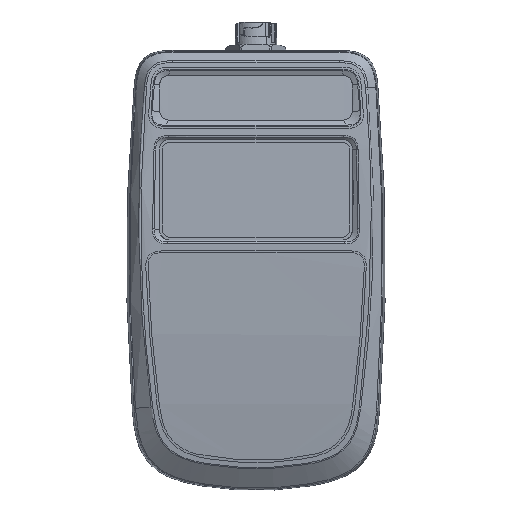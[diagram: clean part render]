
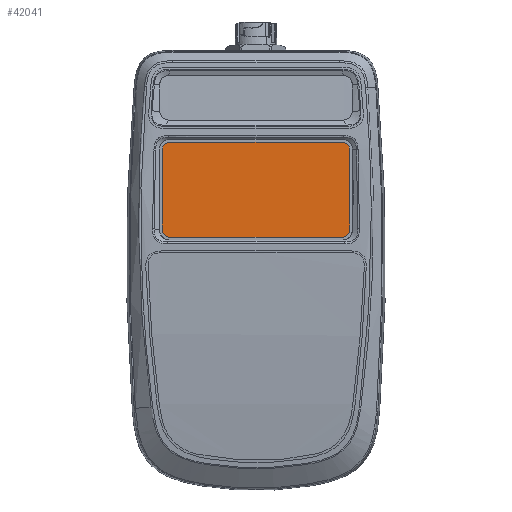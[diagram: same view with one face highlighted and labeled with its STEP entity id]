
A CAD part, top view. The second image highlights one B-rep face of the part: STEP entity #42041.
In plain terms, the highlighted planar face has unit normal (0, 0, 1).
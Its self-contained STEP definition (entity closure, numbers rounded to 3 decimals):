
#1650 = CARTESIAN_POINT ( 'NONE',  ( 31., 7.9, 13.5 ) ) ;
#1729 = EDGE_CURVE ( 'NONE', #7754, #39857, #15596, .T. ) ;
#2017 = CARTESIAN_POINT ( 'NONE',  ( 33.6, 39.5, 13.5 ) ) ;
#2302 = AXIS2_PLACEMENT_3D ( 'NONE', #29156, #7526, #50826 ) ;
#3307 = DIRECTION ( 'NONE',  ( 1., 0., 0. ) ) ;
#6739 = EDGE_CURVE ( 'NONE', #9094, #67691, #29383, .T. ) ;
#7526 = DIRECTION ( 'NONE',  ( 0., 0., 1. ) ) ;
#7754 = VERTEX_POINT ( 'NONE', #41322 ) ;
#8089 = CARTESIAN_POINT ( 'NONE',  ( 31., 42.1, 13.5 ) ) ;
#8381 = EDGE_CURVE ( 'NONE', #91389, #7754, #57954, .T. ) ;
#9094 = VERTEX_POINT ( 'NONE', #30779 ) ;
#9519 = PLANE ( 'NONE',  #47191 ) ;
#11336 = DIRECTION ( 'NONE',  ( 0., 0., 1. ) ) ;
#12687 = ORIENTED_EDGE ( 'NONE', *, *, #76613, .T. ) ;
#15596 = LINE ( 'NONE', #50024, #24870 ) ;
#15933 = ORIENTED_EDGE ( 'NONE', *, *, #1729, .T. ) ;
#16891 = DIRECTION ( 'NONE',  ( 0., 0., 1. ) ) ;
#18258 = LINE ( 'NONE', #89475, #55705 ) ;
#19916 = EDGE_CURVE ( 'NONE', #67691, #91389, #56037, .T. ) ;
#23489 = CIRCLE ( 'NONE', #92764, 2.6 ) ;
#23496 = DIRECTION ( 'NONE',  ( 0., -1., 0. ) ) ;
#24870 = VECTOR ( 'NONE', #49556, 1000. ) ;
#29156 = CARTESIAN_POINT ( 'NONE',  ( -31., 10.5, 13.5 ) ) ;
#29383 = CIRCLE ( 'NONE', #2302, 2.6 ) ;
#30779 = CARTESIAN_POINT ( 'NONE',  ( -33.6, 10.5, 13.5 ) ) ;
#31038 = DIRECTION ( 'NONE',  ( 1., 0., 0. ) ) ;
#31255 = CIRCLE ( 'NONE', #79426, 2.6 ) ;
#32557 = DIRECTION ( 'NONE',  ( 1., 0., 0. ) ) ;
#39495 = ORIENTED_EDGE ( 'NONE', *, *, #19916, .T. ) ;
#39857 = VERTEX_POINT ( 'NONE', #2017 ) ;
#41322 = CARTESIAN_POINT ( 'NONE',  ( 33.6, 10.5, 13.5 ) ) ;
#41896 = VERTEX_POINT ( 'NONE', #68918 ) ;
#42024 = DIRECTION ( 'NONE',  ( 1., 0., 0. ) ) ;
#42041 = ADVANCED_FACE ( 'Defeatured_68380', ( #74008 ), #9519, .T. ) ;
#47191 = AXIS2_PLACEMENT_3D ( 'NONE', #60831, #11336, #3307 ) ;
#49556 = DIRECTION ( 'NONE',  ( 0., 1., 0. ) ) ;
#50024 = CARTESIAN_POINT ( 'NONE',  ( 33.6, 10.5, 13.5 ) ) ;
#50398 = CARTESIAN_POINT ( 'NONE',  ( -31., 7.9, 13.5 ) ) ;
#50826 = DIRECTION ( 'NONE',  ( 1., 0., 0. ) ) ;
#53968 = VERTEX_POINT ( 'NONE', #54976 ) ;
#53986 = ORIENTED_EDGE ( 'NONE', *, *, #61502, .T. ) ;
#54976 = CARTESIAN_POINT ( 'NONE',  ( -33.6, 39.5, 13.5 ) ) ;
#55705 = VECTOR ( 'NONE', #23496, 1000. ) ;
#56037 = LINE ( 'NONE', #50398, #69565 ) ;
#56984 = DIRECTION ( 'NONE',  ( 1., 0., 0. ) ) ;
#57059 = ORIENTED_EDGE ( 'NONE', *, *, #6739, .T. ) ;
#57954 = CIRCLE ( 'NONE', #91139, 2.6 ) ;
#60252 = CARTESIAN_POINT ( 'NONE',  ( 31., 39.5, 13.5 ) ) ;
#60831 = CARTESIAN_POINT ( 'NONE',  ( -31., 39.5, 13.5 ) ) ;
#61502 = EDGE_CURVE ( 'NONE', #39857, #91350, #23489, .T. ) ;
#65577 = VECTOR ( 'NONE', #90754, 1000. ) ;
#67691 = VERTEX_POINT ( 'NONE', #85055 ) ;
#68918 = CARTESIAN_POINT ( 'NONE',  ( -31., 42.1, 13.5 ) ) ;
#68964 = ORIENTED_EDGE ( 'NONE', *, *, #85050, .T. ) ;
#69565 = VECTOR ( 'NONE', #56984, 1000. ) ;
#70409 = LINE ( 'NONE', #8089, #65577 ) ;
#70596 = ORIENTED_EDGE ( 'NONE', *, *, #82498, .T. ) ;
#74008 = FACE_OUTER_BOUND ( 'NONE', #82116, .T. ) ;
#76322 = CARTESIAN_POINT ( 'NONE',  ( -31., 39.5, 13.5 ) ) ;
#76613 = EDGE_CURVE ( 'NONE', #91350, #41896, #70409, .T. ) ;
#77853 = DIRECTION ( 'NONE',  ( 0., 0., 1. ) ) ;
#79426 = AXIS2_PLACEMENT_3D ( 'NONE', #76322, #90107, #32557 ) ;
#82116 = EDGE_LOOP ( 'NONE', ( #68964, #70596, #57059, #39495, #92309, #15933, #53986, #12687 ) ) ;
#82498 = EDGE_CURVE ( 'NONE', #53968, #9094, #18258, .T. ) ;
#84930 = CARTESIAN_POINT ( 'NONE',  ( 31., 10.5, 13.5 ) ) ;
#85050 = EDGE_CURVE ( 'NONE', #41896, #53968, #31255, .T. ) ;
#85055 = CARTESIAN_POINT ( 'NONE',  ( -31., 7.9, 13.5 ) ) ;
#86977 = CARTESIAN_POINT ( 'NONE',  ( 31., 42.1, 13.5 ) ) ;
#89475 = CARTESIAN_POINT ( 'NONE',  ( -33.6, 39.5, 13.5 ) ) ;
#90107 = DIRECTION ( 'NONE',  ( 0., 0., 1. ) ) ;
#90754 = DIRECTION ( 'NONE',  ( -1., 0., 0. ) ) ;
#91139 = AXIS2_PLACEMENT_3D ( 'NONE', #84930, #77853, #42024 ) ;
#91350 = VERTEX_POINT ( 'NONE', #86977 ) ;
#91389 = VERTEX_POINT ( 'NONE', #1650 ) ;
#92309 = ORIENTED_EDGE ( 'NONE', *, *, #8381, .T. ) ;
#92764 = AXIS2_PLACEMENT_3D ( 'NONE', #60252, #16891, #31038 ) ;
